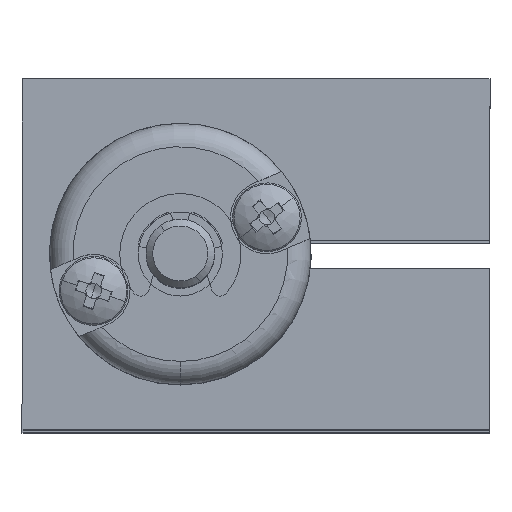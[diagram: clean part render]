
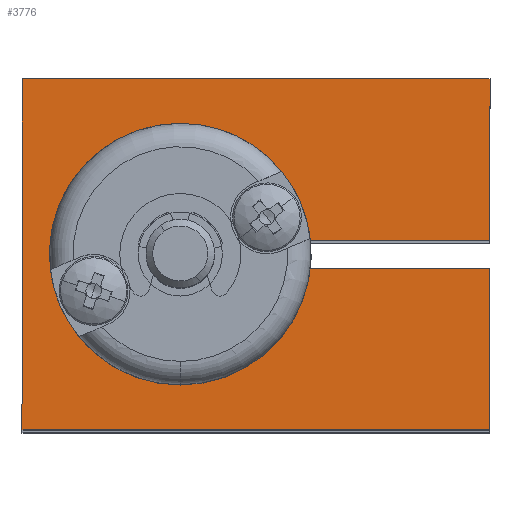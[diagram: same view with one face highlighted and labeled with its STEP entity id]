
A CAD part, top view. The second image highlights one B-rep face of the part: STEP entity #3776.
In plain terms, the highlighted planar face has unit normal (0, 0, 1).
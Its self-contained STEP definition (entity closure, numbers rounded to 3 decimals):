
#30 = EDGE_CURVE ( 'NONE', #13434, #4422, #7817, .T. ) ;
#133 = CARTESIAN_POINT ( 'NONE',  ( -1., 22.5, 6.5 ) ) ;
#440 = VECTOR ( 'NONE', #13440, 1000. ) ;
#455 = VERTEX_POINT ( 'NONE', #9576 ) ;
#578 = CARTESIAN_POINT ( 'NONE',  ( 1., 22.5, 6.5 ) ) ;
#703 = DIRECTION ( 'NONE',  ( 0., 1., 0. ) ) ;
#765 = CARTESIAN_POINT ( 'NONE',  ( -1., 9.397, 6.5 ) ) ;
#840 = LINE ( 'NONE', #765, #9391 ) ;
#1495 = EDGE_CURVE ( 'NONE', #8694, #13434, #840, .T. ) ;
#1641 = DIRECTION ( 'NONE',  ( 1., 0., 0. ) ) ;
#1938 = LINE ( 'NONE', #12934, #7696 ) ;
#2067 = CARTESIAN_POINT ( 'NONE',  ( 0., 0., 6.5 ) ) ;
#2191 = EDGE_CURVE ( 'NONE', #7881, #2603, #12625, .T. ) ;
#2443 = VERTEX_POINT ( 'NONE', #5603 ) ;
#2603 = VERTEX_POINT ( 'NONE', #10232 ) ;
#2634 = ORIENTED_EDGE ( 'NONE', *, *, #2191, .T. ) ;
#2681 = CARTESIAN_POINT ( 'NONE',  ( 12.75, -11.5, 6.5 ) ) ;
#3014 = PLANE ( 'NONE',  #8595 ) ;
#3282 = LINE ( 'NONE', #12389, #440 ) ;
#3376 = CARTESIAN_POINT ( 'NONE',  ( 0., 0., 6.5 ) ) ;
#3464 = CIRCLE ( 'NONE', #13614, 9.45 ) ;
#3776 = ADVANCED_FACE ( 'NONE', ( #4277 ), #3014, .T. ) ;
#3824 = CARTESIAN_POINT ( 'NONE',  ( -12.75, 22.5, 6.5 ) ) ;
#4150 = VECTOR ( 'NONE', #13087, 1000. ) ;
#4277 = FACE_OUTER_BOUND ( 'NONE', #9782, .T. ) ;
#4359 = CIRCLE ( 'NONE', #5827, 9.45 ) ;
#4422 = VERTEX_POINT ( 'NONE', #11489 ) ;
#4448 = LINE ( 'NONE', #8926, #7344 ) ;
#4476 = DIRECTION ( 'NONE',  ( 1., 0., 0. ) ) ;
#4525 = EDGE_CURVE ( 'NONE', #4422, #9935, #1938, .T. ) ;
#4899 = DIRECTION ( 'NONE',  ( 0., 0., 1. ) ) ;
#4931 = CARTESIAN_POINT ( 'NONE',  ( 0., 0., 6.5 ) ) ;
#5230 = VERTEX_POINT ( 'NONE', #8425 ) ;
#5332 = EDGE_CURVE ( 'NONE', #8333, #7881, #4448, .T. ) ;
#5391 = ORIENTED_EDGE ( 'NONE', *, *, #4525, .T. ) ;
#5431 = DIRECTION ( 'NONE',  ( 0., 0., -1. ) ) ;
#5603 = CARTESIAN_POINT ( 'NONE',  ( 12.75, -11.5, 6.5 ) ) ;
#5713 = DIRECTION ( 'NONE',  ( 0., 1., 0. ) ) ;
#5750 = LINE ( 'NONE', #2681, #7631 ) ;
#5827 = AXIS2_PLACEMENT_3D ( 'NONE', #11763, #5431, #12823 ) ;
#5862 = EDGE_CURVE ( 'NONE', #455, #5230, #13048, .T. ) ;
#6548 = DIRECTION ( 'NONE',  ( 1., 0., 0. ) ) ;
#6728 = CARTESIAN_POINT ( 'NONE',  ( 12.75, 22.5, 6.5 ) ) ;
#7191 = EDGE_CURVE ( 'NONE', #2443, #8333, #5750, .T. ) ;
#7344 = VECTOR ( 'NONE', #9383, 1000. ) ;
#7425 = CARTESIAN_POINT ( 'NONE',  ( 1., 9.397, 6.5 ) ) ;
#7464 = CARTESIAN_POINT ( 'NONE',  ( -1., 9.397, 6.5 ) ) ;
#7610 = EDGE_CURVE ( 'NONE', #5230, #8694, #4359, .T. ) ;
#7631 = VECTOR ( 'NONE', #5713, 1000. ) ;
#7632 = CARTESIAN_POINT ( 'NONE',  ( -12.75, -11.5, 6.5 ) ) ;
#7696 = VECTOR ( 'NONE', #12962, 1000. ) ;
#7817 = LINE ( 'NONE', #3824, #12674 ) ;
#7881 = VERTEX_POINT ( 'NONE', #578 ) ;
#8315 = ORIENTED_EDGE ( 'NONE', *, *, #5862, .T. ) ;
#8333 = VERTEX_POINT ( 'NONE', #6728 ) ;
#8425 = CARTESIAN_POINT ( 'NONE',  ( -9.45, 0., 6.5 ) ) ;
#8595 = AXIS2_PLACEMENT_3D ( 'NONE', #2067, #4899, #1641 ) ;
#8633 = ORIENTED_EDGE ( 'NONE', *, *, #10414, .T. ) ;
#8694 = VERTEX_POINT ( 'NONE', #7464 ) ;
#8926 = CARTESIAN_POINT ( 'NONE',  ( 12.75, 22.5, 6.5 ) ) ;
#9080 = DIRECTION ( 'NONE',  ( 0., 0., -1. ) ) ;
#9383 = DIRECTION ( 'NONE',  ( -1., 0., 0. ) ) ;
#9391 = VECTOR ( 'NONE', #703, 1000. ) ;
#9493 = ORIENTED_EDGE ( 'NONE', *, *, #10002, .T. ) ;
#9576 = CARTESIAN_POINT ( 'NONE',  ( 9.45, 0., 6.5 ) ) ;
#9782 = EDGE_LOOP ( 'NONE', ( #9831, #11406, #2634, #9493, #8315, #13538, #11389, #10174, #5391, #8633 ) ) ;
#9831 = ORIENTED_EDGE ( 'NONE', *, *, #7191, .T. ) ;
#9935 = VERTEX_POINT ( 'NONE', #7632 ) ;
#10002 = EDGE_CURVE ( 'NONE', #2603, #455, #3464, .T. ) ;
#10174 = ORIENTED_EDGE ( 'NONE', *, *, #30, .T. ) ;
#10232 = CARTESIAN_POINT ( 'NONE',  ( 1., 9.397, 6.5 ) ) ;
#10414 = EDGE_CURVE ( 'NONE', #9935, #2443, #3282, .T. ) ;
#10839 = DIRECTION ( 'NONE',  ( 0., 0., -1. ) ) ;
#11097 = AXIS2_PLACEMENT_3D ( 'NONE', #4931, #9080, #6548 ) ;
#11389 = ORIENTED_EDGE ( 'NONE', *, *, #1495, .T. ) ;
#11406 = ORIENTED_EDGE ( 'NONE', *, *, #5332, .T. ) ;
#11489 = CARTESIAN_POINT ( 'NONE',  ( -12.75, 22.5, 6.5 ) ) ;
#11763 = CARTESIAN_POINT ( 'NONE',  ( 0., 0., 6.5 ) ) ;
#12389 = CARTESIAN_POINT ( 'NONE',  ( -12.75, -11.5, 6.5 ) ) ;
#12625 = LINE ( 'NONE', #7425, #4150 ) ;
#12674 = VECTOR ( 'NONE', #13279, 1000. ) ;
#12823 = DIRECTION ( 'NONE',  ( 1., 0., 0. ) ) ;
#12934 = CARTESIAN_POINT ( 'NONE',  ( -12.75, -11.5, 6.5 ) ) ;
#12962 = DIRECTION ( 'NONE',  ( 0., -1., 0. ) ) ;
#13048 = CIRCLE ( 'NONE', #11097, 9.45 ) ;
#13087 = DIRECTION ( 'NONE',  ( 0., -1., 0. ) ) ;
#13279 = DIRECTION ( 'NONE',  ( -1., 0., 0. ) ) ;
#13434 = VERTEX_POINT ( 'NONE', #133 ) ;
#13440 = DIRECTION ( 'NONE',  ( 1., 0., 0. ) ) ;
#13538 = ORIENTED_EDGE ( 'NONE', *, *, #7610, .T. ) ;
#13614 = AXIS2_PLACEMENT_3D ( 'NONE', #3376, #10839, #4476 ) ;
